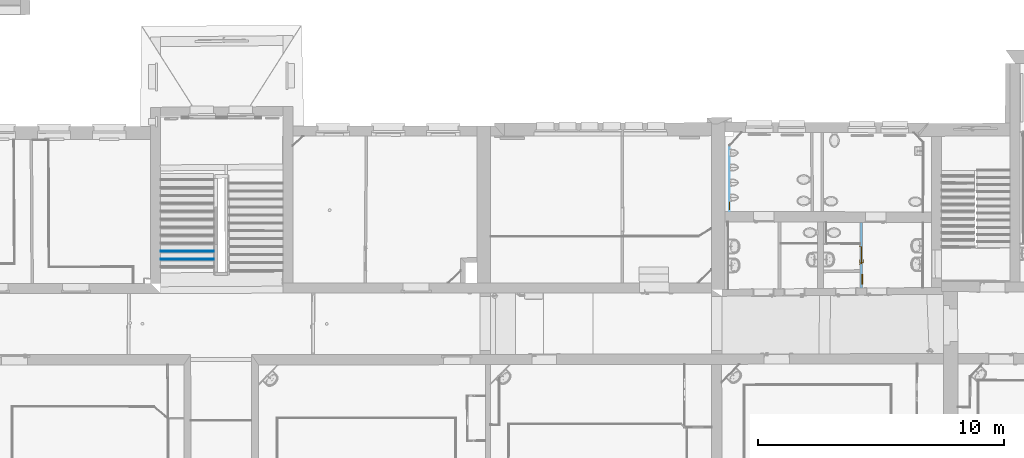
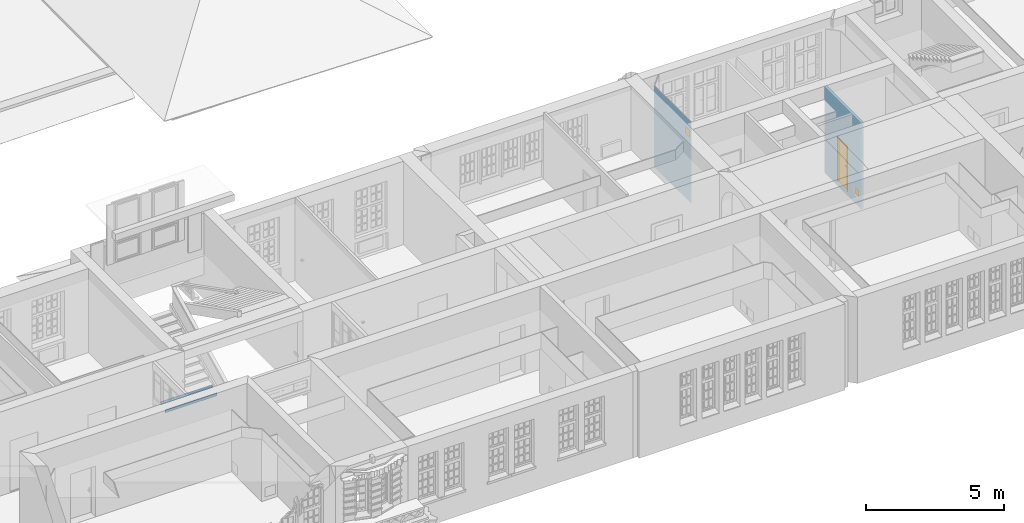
# One storey, part 89 of 158: 3 doors, 2 building element parts, 3 openings, 1 element without a shape of its own, plus 2 elements that do not belong to this part.
"""IFC2X3 building model written with IfcOpenShell, lengths in metres."""

from ifc_helpers import new_model, entity, si_unit, converted_unit, derived_unit, money_unit, direction, frame, origin_with_axes, origin_2d_with_axis, place, context, subcontext, project, spatial, polyline, rectangle, outline, extrude, faceted_brep, material, layer, layer_set, layer_usage, type_object, element, fill, aggregate, save


model = new_model("IFC2X3")

# Units and contexts
model_context = context("Model", 3, precision=1e-05, world=origin_with_axes(), true_north=direction((0.0, 1.0)))
body_context = subcontext(model_context, "Body", "Model", "MODEL_VIEW")
ifc_project = project(units=[si_unit("LENGTHUNIT", "METRE"), si_unit("AREAUNIT", "SQUARE_METRE"), si_unit("VOLUMEUNIT", "CUBIC_METRE"), converted_unit("PLANEANGLEUNIT", "DEGREE", entity("IfcPlaneAngleMeasure", 0.0174532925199), si_unit("PLANEANGLEUNIT", "RADIAN"), dimensions=[0, 0, 0, 0, 0, 0, 0]), money_unit("EUR"), converted_unit("TIMEUNIT", "Year", entity("IfcTimeMeasure", 31556926.0), si_unit("TIMEUNIT", "SECOND"), dimensions=[0, 0, 1, 0, 0, 0, 0]), si_unit("MASSUNIT", "GRAM", prefix="KILO"), si_unit("THERMODYNAMICTEMPERATUREUNIT", "DEGREE_CELSIUS"), si_unit("LUMINOUSINTENSITYUNIT", "LUMEN"), si_unit("ENERGYUNIT", "JOULE", prefix="MEGA"), derived_unit("THERMALCONDUCTANCEUNIT", [(si_unit("POWERUNIT", "WATT"), 1), (si_unit("LENGTHUNIT", "METRE"), -1), (si_unit("THERMODYNAMICTEMPERATUREUNIT", "KELVIN"), -1)]), derived_unit("SPECIFICHEATCAPACITYUNIT", [(si_unit("ENERGYUNIT", "JOULE"), 1), (si_unit("MASSUNIT", "GRAM", prefix="KILO"), -1), (si_unit("THERMODYNAMICTEMPERATUREUNIT", "KELVIN"), -1)]), derived_unit("MASSDENSITYUNIT", [(si_unit("MASSUNIT", "GRAM", prefix="KILO"), 1), (si_unit("VOLUMEUNIT", "CUBIC_METRE"), -1)])], contexts=[model_context])

# Site, building, storey
site_placement = place(None, origin_with_axes())
site = spatial("IfcSite", under=ifc_project, at=site_placement, Name="Gelände", CompositionType="ELEMENT")
building_placement = place(site_placement, origin_with_axes())
building = spatial("IfcBuilding", under=site, at=building_placement, Name="Gebäude", CompositionType="ELEMENT")
storey_placement = place(building_placement, origin_with_axes())
storey = spatial("IfcBuildingStorey", under=building, at=storey_placement, Name="ERDGESCHOSS", CompositionType="ELEMENT", Elevation=0.0)

# Wall, opening, door
ifc_material_1 = material(Name="43_Gipskarton")
ifc_layer_1 = layer(ifc_material_1, 0.03, ventilated="UNKNOWN")
ifc_layer_set_1 = layer_set([ifc_layer_1], Name="43_Gipskarton 0.03")
ifc_layer_usage_1 = layer_usage(ifc_layer_set_1, "AXIS2", "NEGATIVE", 0.03)
wall_type_1 = type_object("IfcWallType", Name="43_Gipskarton 30", PredefinedType="ELEMENTEDWALL")
wall_1_placement = place(storey_placement, frame((13.298092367, 22.1728609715, 0.01), z_axis=(0.0, 0.0, 1.0), x_axis=(-0.00146747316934, 0.999998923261, 0.0)))
wall_1 = element("IfcWallStandardCase", 1, at=wall_1_placement, inside=storey, type_object=wall_type_1, material=ifc_layer_usage_1, Name="Wand-040", ObjectType="ELEMENTEDWALL", context=body_context, shape_type="SweptSolid", body=[
    extrude(outline(polyline([(0.430006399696, 0.0), (3.09420156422, 0.0), (3.10572213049, 0.03), (0.430170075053, 0.03), (0.430006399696, 0.0)])), origin_with_axes(), (0.0, 0.0, 1.0), 3.59),
])
opening_1_placement = place(wall_1_placement, frame((0.659337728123, 0.0, 2.85684366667), z_axis=(0.0, 0.0, 1.0), x_axis=(1.0, 0.0, 0.0)))
opening_1 = element("IfcOpeningElement", 2, at=opening_1_placement, cuts=wall_1, Name="Tür-022", context=body_context, shape_type="SweptSolid", body=[
    extrude(rectangle(XDim=0.304081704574, YDim=0.300507, at=origin_2d_with_axis()), frame((0.0, -0.03, 0.1502535), z_axis=(0.0, 1.0, 0.0), x_axis=(-1.0, 0.0, 0.0)), (0.0, 0.0, 1.0), 0.09),
])
door_style_1 = type_object("IfcDoorStyle", Name="Blockrahmentür 1-Fl 25", ConstructionType="NOTDEFINED", OperationType="SINGLE_SWING_RIGHT", ParameterTakesPrecedence=False, Sizeable=False)
door_1_placement = place(opening_1_placement, frame((0.147040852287, 0.0, 0.0), z_axis=(0.0, 0.0, 1.0), x_axis=(-1.0, 0.0, 0.0)))
door_1 = element("IfcDoor", 3, at=door_1_placement, inside=storey, type_object=door_style_1, Name="Tür-022", ObjectType="NOTDEFINED", OverallHeight=0.300507, OverallWidth=0.304082, context=body_context, shape_type="Brep", body=[
    faceted_brep([(0.299081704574, -0.03, 0.0), (0.299081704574, 0.0, 0.0), (0.309081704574, 0.0, 0.0), (0.309081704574, -0.03, 0.0), (0.299081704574, -0.03, 0.300507), (0.299081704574, 0.0, 0.300507), (-0.005, 0.0, 0.300507), (-0.005, 0.0, 0.0), (-0.015, 0.0, 0.0), (-0.015, 0.0, 0.310507), (0.162140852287, 0.0, 0.310507), (0.247140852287, 0.0, 0.310507), (0.309081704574, 0.0, 0.310507), (0.309081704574, -0.03, 0.310507), (0.247140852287, -0.03, 0.310507), (0.162140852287, -0.03, 0.310507), (-0.015, -0.03, 0.310507), (-0.015, -0.03, 0.0), (-0.005, -0.03, 0.0), (-0.005, -0.03, 0.300507)], [[[0, 1, 2, 3]], [[4, 5, 1, 0]], [[1, 5, 6, 7, 8, 9, 10, 11, 12, 2]], [[3, 2, 12, 13]], [[0, 3, 13, 14, 15, 16, 17, 18, 19, 4]], [[19, 6, 5, 4]], [[18, 7, 6, 19]], [[17, 8, 7, 18]], [[16, 9, 8, 17]], [[15, 10, 9, 16]], [[14, 11, 10, 15]], [[13, 12, 11, 14]]]),
    faceted_brep([(0.309081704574, 0.0, 0.0), (-0.015, 0.0, 0.0), (-0.015, 0.0, 0.310507), (0.309081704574, 0.0, 0.310507), (0.309081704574, -0.03, 0.0), (-0.015, -0.03, 0.0), (-0.015, -0.03, 0.310507), (0.309081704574, -0.03, 0.310507)], [[[0, 1, 2, 3]], [[1, 0, 4, 5]], [[2, 1, 5, 6]], [[3, 2, 6, 7]], [[0, 3, 7, 4]], [[5, 4, 7, 6]]]),
])
fill(opening_1, door_1)

# Wall, openings, doors
ifc_layer_2 = layer(ifc_material_1, 0.1, ventilated="UNKNOWN")
ifc_layer_set_2 = layer_set([ifc_layer_2], Name="43_Gipskarton 0.1")
ifc_layer_usage_2 = layer_usage(ifc_layer_set_2, "AXIS2", "NEGATIVE", 0.0)
wall_type_2 = type_object("IfcWallType", Name="43_Gipskarton 100", PredefinedType="ELEMENTEDWALL")
wall_2_placement = place(storey_placement, frame((18.6842052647, 22.1513793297, -0.210000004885), z_axis=(0.0, 0.0, 1.0), x_axis=(-0.00326420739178, -0.999994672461, 0.0)))
wall_2 = element("IfcWallStandardCase", 4, at=wall_2_placement, inside=storey, type_object=wall_type_2, material=ifc_layer_usage_2, Name="Wand-039", ObjectType="ELEMENTEDWALL", context=body_context, shape_type="SweptSolid", body=[
    extrude(outline(polyline([(-7.24104359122e-05, -0.1), (2.67223283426, -0.1), (2.67099647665, 0.0), (0.0, 0.0), (-7.24104359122e-05, -0.1)])), origin_with_axes(), (0.0, 0.0, 1.0), 3.81000000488),
])
opening_2_placement = place(wall_2_placement, frame((1.33430360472, 0.0, 0.179549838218), z_axis=(0.0, 0.0, 1.0), x_axis=(1.0, 0.0, 0.0)))
opening_2 = element("IfcOpeningElement", 5, at=opening_2_placement, cuts=wall_2, Name="Tür-022", context=body_context, shape_type="SweptSolid", body=[
    extrude(rectangle(XDim=0.708310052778, YDim=1.981769, at=origin_2d_with_axis()), frame((0.0, 0.1, 0.9908845), z_axis=(0.0, 1.0, 0.0), x_axis=(-1.0, 0.0, 0.0)), (0.0, 0.0, -1.0), 0.3),
])
opening_3_placement = place(wall_2_placement, frame((2.31514698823, 0.0, 0.323223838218), z_axis=(0.0, 0.0, 1.0), x_axis=(1.0, 0.0, 0.0)))
opening_3 = element("IfcOpeningElement", 6, at=opening_3_placement, cuts=wall_2, Name="Brandschutzklappe", context=body_context, shape_type="SweptSolid", body=[
    extrude(rectangle(XDim=0.392963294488, YDim=0.406453, at=origin_2d_with_axis()), frame((0.0, -0.0180311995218, 0.2032265), z_axis=(0.0, 1.0, 0.0), x_axis=(1.0, 0.0, 0.0)), (0.0, 0.0, -1.0), 0.181968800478),
    extrude(rectangle(XDim=0.392963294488, YDim=0.406453, at=origin_2d_with_axis()), frame((0.0, -0.0180311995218, 0.2032265), z_axis=(0.0, -1.0, 0.0), x_axis=(1.0, 0.0, 0.0)), (0.0, 0.0, -1.0), 0.118031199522),
])
door_style_2 = type_object("IfcDoorStyle", Name="Blockrahmentür 1-Fl 25", ConstructionType="NOTDEFINED", OperationType="SINGLE_SWING_LEFT", ParameterTakesPrecedence=False, Sizeable=False)
door_2_placement = place(opening_2_placement, frame((-0.343655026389, 0.0, 0.0), z_axis=(0.0, 0.0, 1.0), x_axis=(1.0, 0.0, 0.0)))
door_2 = element("IfcDoor", 7, at=door_2_placement, inside=storey, type_object=door_style_2, Name="Tür-022", ObjectType="NOTDEFINED", OverallHeight=1.98177, OverallWidth=0.70831, context=body_context, shape_type="Brep", body=[
    faceted_brep([(-0.0105, -0.111, 0.0), (-0.0105, -0.111, 1.981769), (-0.0105, -0.054, 1.981769), (-0.0105, -0.054, 0.0), (0.0, -0.111, 0.0), (0.0, -0.111, 1.971269), (0.228555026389, -0.111, 1.971269), (0.343555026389, -0.111, 1.971269), (0.687310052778, -0.111, 1.971269), (0.687310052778, -0.111, 0.0), (0.697810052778, -0.111, 0.0), (0.697810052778, -0.111, 1.981769), (0.697810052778, -0.054, 1.981769), (0.697810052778, -0.054, 0.0), (0.687310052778, -0.054, 0.0), (0.687310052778, -0.054, 1.971269), (0.343555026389, -0.054, 1.971269), (0.228555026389, -0.054, 1.971269), (0.0, -0.054, 1.971269), (0.0, -0.054, 0.0)], [[[0, 1, 2, 3]], [[0, 4, 5, 6, 7, 8, 9, 10, 11, 1]], [[1, 11, 12, 2]], [[3, 2, 12, 13, 14, 15, 16, 17, 18, 19]], [[4, 0, 3, 19]], [[5, 4, 19, 18]], [[6, 5, 18, 17]], [[7, 6, 17, 16]], [[8, 7, 16, 15]], [[9, 8, 15, 14]], [[10, 9, 14, 13]], [[11, 10, 13, 12]]]),
    faceted_brep([(-0.0105, -0.054, 0.0), (-0.015, -0.054, 0.0), (-0.015, 0.011, 0.0), (-0.0105, 0.011, 0.0), (-0.0105, -0.054, 1.981769), (0.697810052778, -0.054, 1.981769), (0.697810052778, -0.054, 0.0), (0.702310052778, -0.054, 0.0), (0.702310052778, -0.054, 1.986269), (0.328555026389, -0.054, 1.986269), (0.243555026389, -0.054, 1.986269), (-0.015, -0.054, 1.986269), (-0.015, 0.011, 1.986269), (0.243555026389, 0.011, 1.986269), (0.328555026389, 0.011, 1.986269), (0.702310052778, 0.011, 1.986269), (0.702310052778, 0.011, 0.0), (0.697810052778, 0.011, 0.0), (0.697810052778, 0.011, 1.981769), (-0.0105, 0.011, 1.981769)], [[[0, 1, 2, 3]], [[0, 4, 5, 6, 7, 8, 9, 10, 11, 1]], [[1, 11, 12, 2]], [[3, 2, 12, 13, 14, 15, 16, 17, 18, 19]], [[4, 0, 3, 19]], [[5, 4, 19, 18]], [[6, 5, 18, 17]], [[7, 6, 17, 16]], [[8, 7, 16, 15]], [[9, 8, 15, 14]], [[10, 9, 14, 13]], [[11, 10, 13, 12]]]),
    faceted_brep([(-0.0505, -0.111, 0.0), (-0.0505, -0.111, 2.021769), (-0.0505, -0.1, 2.021769), (-0.0505, -0.1, 0.0), (-0.0105, -0.111, 0.0), (-0.0105, -0.111, 1.981769), (0.697810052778, -0.111, 1.981769), (0.697810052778, -0.111, 0.0), (0.737810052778, -0.111, 0.0), (0.737810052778, -0.111, 2.021769), (0.737810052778, -0.1, 2.021769), (0.737810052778, -0.1, 0.0), (0.697810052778, -0.1, 0.0), (0.697810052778, -0.1, 1.981769), (-0.0105, -0.1, 1.981769), (-0.0105, -0.1, 0.0)], [[[0, 1, 2, 3]], [[0, 4, 5, 6, 7, 8, 9, 1]], [[1, 9, 10, 2]], [[3, 2, 10, 11, 12, 13, 14, 15]], [[4, 0, 3, 15]], [[5, 4, 15, 14]], [[6, 5, 14, 13]], [[7, 6, 13, 12]], [[8, 7, 12, 11]], [[9, 8, 11, 10]]]),
    faceted_brep([(-0.0505, 0.0, 0.0), (-0.0505, 0.0, 2.021769), (-0.0505, 0.011, 2.021769), (-0.0505, 0.011, 0.0), (-0.0105, 0.0, 0.0), (-0.0105, 0.0, 1.981769), (0.697810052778, 0.0, 1.981769), (0.697810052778, 0.0, 0.0), (0.737810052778, 0.0, 0.0), (0.737810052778, 0.0, 2.021769), (0.737810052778, 0.011, 2.021769), (0.737810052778, 0.011, 0.0), (0.697810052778, 0.011, 0.0), (0.697810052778, 0.011, 1.981769), (-0.0105, 0.011, 1.981769), (-0.0105, 0.011, 0.0)], [[[0, 1, 2, 3]], [[0, 4, 5, 6, 7, 8, 9, 1]], [[1, 9, 10, 2]], [[3, 2, 10, 11, 12, 13, 14, 15]], [[4, 0, 3, 15]], [[5, 4, 15, 14]], [[6, 5, 14, 13]], [[7, 6, 13, 12]], [[8, 7, 12, 11]], [[9, 8, 11, 10]]]),
    faceted_brep([(-0.015, -0.014, 0.0), (-0.015, -0.014, 1.986269), (0.702310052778, -0.014, 1.986269), (0.702310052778, -0.014, 0.0), (-0.015, -0.054, 0.0), (-0.015, -0.054, 1.986269), (0.702310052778, -0.054, 1.986269), (0.702310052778, -0.054, 0.0)], [[[0, 1, 2, 3]], [[0, 4, 5, 1]], [[1, 5, 6, 2]], [[2, 6, 7, 3]], [[3, 7, 4, 0]], [[7, 6, 5, 4]]]),
    faceted_brep([(0.647012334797, -0.094, 1.05647213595), (0.647012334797, -0.074, 1.05647213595), (0.642310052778, -0.074, 1.058), (0.642310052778, -0.094, 1.058), (0.649918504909, -0.094, 1.05247213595), (0.649918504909, -0.074, 1.05247213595), (0.648187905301, -0.072, 1.05809016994), (0.642310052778, -0.072, 1.06), (0.63760777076, -0.074, 1.05647213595), (0.63760777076, -0.094, 1.05647213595), (0.634701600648, -0.094, 1.05247213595), (0.634701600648, -0.094, 1.04752786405), (0.63760777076, -0.094, 1.04352786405), (0.642310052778, -0.094, 1.042), (0.647012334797, -0.094, 1.04352786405), (0.649918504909, -0.094, 1.04752786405), (0.649918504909, -0.074, 1.04752786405), (0.651820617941, -0.072, 1.05309016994), (0.648187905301, -0.064, 1.05809016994), (0.642310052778, -0.064, 1.06), (0.636432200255, -0.072, 1.05809016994), (0.634701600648, -0.074, 1.05247213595), (0.634701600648, -0.074, 1.04752786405), (0.63760777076, -0.074, 1.04352786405), (0.642310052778, -0.074, 1.042), (0.647012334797, -0.074, 1.04352786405), (0.651820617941, -0.072, 1.04690983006), (0.651820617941, -0.064, 1.05309016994), (0.651820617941, -0.064, 1.04690983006), (0.648187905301, -0.064, 1.04190983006), (0.642310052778, -0.064, 1.04), (0.636432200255, -0.064, 1.04190983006), (0.632799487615, -0.064, 1.04690983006), (0.632799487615, -0.064, 1.05309016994), (0.636432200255, -0.064, 1.05809016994), (0.632799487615, -0.072, 1.05309016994), (0.632799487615, -0.072, 1.04690983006), (0.636432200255, -0.072, 1.04190983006), (0.642310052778, -0.072, 1.04), (0.648187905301, -0.072, 1.04190983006)], [[[0, 1, 2, 3]], [[4, 5, 1, 0]], [[1, 6, 7, 2]], [[3, 2, 8, 9]], [[3, 9, 10, 11, 12, 13, 14, 15, 4, 0]], [[15, 16, 5, 4]], [[5, 17, 6, 1]], [[6, 18, 19, 7]], [[2, 7, 20, 8]], [[9, 8, 21, 10]], [[10, 21, 22, 11]], [[11, 22, 23, 12]], [[12, 23, 24, 13]], [[13, 24, 25, 14]], [[14, 25, 16, 15]], [[16, 26, 17, 5]], [[17, 27, 18, 6]], [[19, 18, 27, 28, 29, 30, 31, 32, 33, 34]], [[7, 19, 34, 20]], [[8, 20, 35, 21]], [[21, 35, 36, 22]], [[22, 36, 37, 23]], [[23, 37, 38, 24]], [[24, 38, 39, 25]], [[25, 39, 26, 16]], [[26, 28, 27, 17]], [[39, 29, 28, 26]], [[38, 30, 29, 39]], [[37, 31, 30, 38]], [[36, 32, 31, 37]], [[35, 33, 32, 36]], [[20, 34, 33, 35]]]),
    faceted_brep([(0.630121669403, -0.064, 1.11759695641), (0.625510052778, -0.064, 1.11), (0.619810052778, -0.064, 1.11), (0.619810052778, -0.064, 0.89), (0.625510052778, -0.064, 0.89), (0.630121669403, -0.064, 0.882403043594), (0.637866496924, -0.064, 0.878044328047), (0.646753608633, -0.064, 0.878044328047), (0.654498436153, -0.064, 0.882403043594), (0.659110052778, -0.064, 0.89), (0.664810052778, -0.064, 0.89), (0.664810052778, -0.064, 1.11), (0.659110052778, -0.064, 1.11), (0.654498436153, -0.064, 1.11759695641), (0.646753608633, -0.064, 1.12195567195), (0.637866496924, -0.064, 1.12195567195), (0.642310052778, -0.064, 0.967425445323), (0.647685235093, -0.064, 0.965143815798), (0.649777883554, -0.064, 0.959692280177), (0.647310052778, -0.064, 0.9544), (0.647310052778, -0.064, 0.9375), (0.645845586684, -0.064, 0.933964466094), (0.642310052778, -0.064, 0.9325), (0.638774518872, -0.064, 0.933964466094), (0.637310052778, -0.064, 0.9375), (0.637310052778, -0.064, 0.9544), (0.634842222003, -0.064, 0.959692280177), (0.636934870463, -0.064, 0.965143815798), (0.630121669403, -0.054, 1.11759695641), (0.625510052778, -0.054, 1.11), (0.619810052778, -0.054, 1.11), (0.619810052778, -0.054, 0.89), (0.625510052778, -0.054, 0.89), (0.630121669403, -0.054, 0.882403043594), (0.637866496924, -0.054, 0.878044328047), (0.646753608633, -0.054, 0.878044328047), (0.654498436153, -0.054, 0.882403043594), (0.659110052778, -0.054, 0.89), (0.664810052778, -0.054, 0.89), (0.664810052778, -0.054, 1.11), (0.659110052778, -0.054, 1.11), (0.654498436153, -0.054, 1.11759695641), (0.646753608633, -0.054, 1.12195567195), (0.637866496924, -0.054, 1.12195567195), (0.642310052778, -0.054, 0.967425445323), (0.647685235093, -0.054, 0.965143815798), (0.649777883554, -0.054, 0.959692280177), (0.647310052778, -0.054, 0.9544), (0.647310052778, -0.054, 0.9375), (0.645845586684, -0.054, 0.933964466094), (0.642310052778, -0.054, 0.9325), (0.638774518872, -0.054, 0.933964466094), (0.637310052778, -0.054, 0.9375), (0.637310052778, -0.054, 0.9544), (0.634842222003, -0.054, 0.959692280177), (0.636934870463, -0.054, 0.965143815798)], [[[0, 1, 2, 3, 4, 5, 6, 7, 8, 9, 10, 11, 12, 13, 14, 15], [16, 17, 18, 19, 20, 21, 22, 23, 24, 25, 26, 27]], [[0, 28, 29, 1]], [[1, 29, 30, 2]], [[2, 30, 31, 3]], [[3, 31, 32, 4]], [[4, 32, 33, 5]], [[5, 33, 34, 6]], [[6, 34, 35, 7]], [[7, 35, 36, 8]], [[8, 36, 37, 9]], [[9, 37, 38, 10]], [[10, 38, 39, 11]], [[11, 39, 40, 12]], [[12, 40, 41, 13]], [[13, 41, 42, 14]], [[14, 42, 43, 15]], [[15, 43, 28, 0]], [[16, 44, 45, 17]], [[17, 45, 46, 18]], [[18, 46, 47, 19]], [[47, 48, 20, 19]], [[21, 20, 48, 49]], [[22, 21, 49, 50]], [[23, 22, 50, 51]], [[24, 23, 51, 52]], [[25, 24, 52, 53]], [[25, 53, 54, 26]], [[26, 54, 55, 27]], [[27, 55, 44, 16]], [[32, 31, 30, 29, 28, 43, 42, 41, 40, 39, 38, 37, 36, 35, 34, 33], [46, 45, 44, 55, 54, 53, 52, 51, 50, 49, 48, 47]]]),
    faceted_brep([(0.528057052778, -0.094, 1.057158), (0.528055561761, -0.094, 1.05719388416), (0.528055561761, -0.109, 1.05719388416), (0.528057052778, -0.109, 1.057158), (0.555084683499, -0.094, 1.06432652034), (0.582912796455, -0.094, 1.06706086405), (0.610818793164, -0.094, 1.06529002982), (0.638078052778, -0.094, 1.05906), (0.644480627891, -0.094, 1.05976125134), (0.649982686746, -0.094, 1.05641280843), (0.652301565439, -0.094, 1.05040385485), (0.65047522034, -0.094, 1.04422735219), (0.645261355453, -0.094, 1.04044577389), (0.638823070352, -0.094, 1.04062800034), (0.633831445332, -0.094, 1.04469843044), (0.633852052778, -0.094, 1.044666), (0.608563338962, -0.094, 1.05019878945), (0.582720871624, -0.094, 1.05171460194), (0.556958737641, -0.094, 1.04917624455), (0.531909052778, -0.094, 1.042646), (0.526365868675, -0.094, 1.04356849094), (0.523004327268, -0.094, 1.04807159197), (0.523695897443, -0.094, 1.05364829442), (0.523695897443, -0.109, 1.05364829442), (0.523004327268, -0.109, 1.04807159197), (0.526365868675, -0.109, 1.04356849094), (0.531909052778, -0.109, 1.042646), (0.556958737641, -0.109, 1.04917624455), (0.582720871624, -0.109, 1.05171460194), (0.608563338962, -0.109, 1.05019878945), (0.633852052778, -0.109, 1.044666), (0.633831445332, -0.109, 1.04469843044), (0.638823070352, -0.109, 1.04062800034), (0.645261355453, -0.109, 1.04044577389), (0.65047522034, -0.109, 1.04422735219), (0.652301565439, -0.109, 1.05040385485), (0.649982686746, -0.109, 1.05641280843), (0.644480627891, -0.109, 1.05976125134), (0.638078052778, -0.109, 1.05906), (0.610818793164, -0.109, 1.06529002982), (0.582912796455, -0.109, 1.06706086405), (0.555084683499, -0.109, 1.06432652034)], [[[0, 1, 2, 3]], [[0, 4, 5, 6, 7, 8, 9, 10, 11, 12, 13, 14, 15, 16, 17, 18, 19, 20, 21, 22, 1]], [[1, 22, 23, 2]], [[3, 2, 23, 24, 25, 26, 27, 28, 29, 30, 31, 32, 33, 34, 35, 36, 37, 38, 39, 40, 41]], [[4, 0, 3, 41]], [[5, 4, 41, 40]], [[6, 5, 40, 39]], [[7, 6, 39, 38]], [[8, 7, 38, 37]], [[9, 8, 37, 36]], [[10, 9, 36, 35]], [[11, 10, 35, 34]], [[12, 11, 34, 33]], [[13, 12, 33, 32]], [[14, 13, 32, 31]], [[15, 14, 31, 30]], [[16, 15, 30, 29]], [[17, 16, 29, 28]], [[18, 17, 28, 27]], [[19, 18, 27, 26]], [[20, 19, 26, 25]], [[21, 20, 25, 24]], [[22, 21, 24, 23]]]),
    faceted_brep([(0.647012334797, 0.026, 1.05647213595), (0.642310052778, 0.026, 1.058), (0.642310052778, 0.006, 1.058), (0.647012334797, 0.006, 1.05647213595), (0.649918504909, 0.026, 1.05247213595), (0.649918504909, 0.026, 1.04752786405), (0.647012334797, 0.026, 1.04352786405), (0.642310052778, 0.026, 1.042), (0.63760777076, 0.026, 1.04352786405), (0.634701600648, 0.026, 1.04752786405), (0.634701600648, 0.026, 1.05247213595), (0.63760777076, 0.026, 1.05647213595), (0.63760777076, 0.006, 1.05647213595), (0.642310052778, 0.004, 1.06), (0.648187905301, 0.00399999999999, 1.05809016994), (0.649918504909, 0.006, 1.05247213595), (0.649918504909, 0.006, 1.04752786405), (0.647012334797, 0.006, 1.04352786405), (0.642310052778, 0.006, 1.042), (0.63760777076, 0.006, 1.04352786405), (0.634701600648, 0.00599999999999, 1.04752786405), (0.634701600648, 0.00599999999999, 1.05247213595), (0.636432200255, 0.004, 1.05809016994), (0.642310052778, -0.004, 1.06), (0.648187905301, -0.004, 1.05809016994), (0.651820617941, 0.004, 1.05309016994), (0.651820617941, 0.004, 1.04690983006), (0.648187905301, 0.00399999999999, 1.04190983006), (0.642310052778, 0.004, 1.04), (0.636432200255, 0.004, 1.04190983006), (0.632799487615, 0.004, 1.04690983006), (0.632799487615, 0.004, 1.05309016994), (0.636432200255, -0.004, 1.05809016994), (0.632799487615, -0.004, 1.05309016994), (0.632799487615, -0.004, 1.04690983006), (0.636432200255, -0.004, 1.04190983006), (0.642310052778, -0.004, 1.04), (0.648187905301, -0.004, 1.04190983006), (0.651820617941, -0.004, 1.04690983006), (0.651820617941, -0.004, 1.05309016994)], [[[0, 1, 2, 3]], [[1, 0, 4, 5, 6, 7, 8, 9, 10, 11]], [[1, 11, 12, 2]], [[3, 2, 13, 14]], [[4, 0, 3, 15]], [[5, 4, 15, 16]], [[6, 5, 16, 17]], [[7, 6, 17, 18]], [[8, 7, 18, 19]], [[9, 8, 19, 20]], [[10, 9, 20, 21]], [[11, 10, 21, 12]], [[2, 12, 22, 13]], [[14, 13, 23, 24]], [[15, 3, 14, 25]], [[16, 15, 25, 26]], [[17, 16, 26, 27]], [[18, 17, 27, 28]], [[19, 18, 28, 29]], [[20, 19, 29, 30]], [[21, 20, 30, 31]], [[12, 21, 31, 22]], [[13, 22, 32, 23]], [[23, 32, 33, 34, 35, 36, 37, 38, 39, 24]], [[25, 14, 24, 39]], [[26, 25, 39, 38]], [[27, 26, 38, 37]], [[28, 27, 37, 36]], [[29, 28, 36, 35]], [[30, 29, 35, 34]], [[31, 30, 34, 33]], [[22, 31, 33, 32]]]),
    faceted_brep([(0.630121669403, -0.014, 1.11759695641), (0.625510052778, -0.014, 1.11), (0.619810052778, -0.014, 1.11), (0.619810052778, -0.014, 0.89), (0.625510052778, -0.014, 0.89), (0.630121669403, -0.014, 0.882403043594), (0.637866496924, -0.014, 0.878044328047), (0.646753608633, -0.014, 0.878044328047), (0.654498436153, -0.014, 0.882403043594), (0.659110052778, -0.014, 0.89), (0.664810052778, -0.014, 0.89), (0.664810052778, -0.014, 1.11), (0.659110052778, -0.014, 1.11), (0.654498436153, -0.014, 1.11759695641), (0.646753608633, -0.014, 1.12195567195), (0.637866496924, -0.014, 1.12195567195), (0.642310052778, -0.014, 0.967425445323), (0.647685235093, -0.014, 0.965143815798), (0.649777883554, -0.014, 0.959692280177), (0.647310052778, -0.014, 0.9544), (0.647310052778, -0.014, 0.9375), (0.645845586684, -0.014, 0.933964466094), (0.642310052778, -0.014, 0.9325), (0.638774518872, -0.014, 0.933964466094), (0.637310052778, -0.014, 0.9375), (0.637310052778, -0.014, 0.9544), (0.634842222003, -0.014, 0.959692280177), (0.636934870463, -0.014, 0.965143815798), (0.630121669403, -0.004, 1.11759695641), (0.625510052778, -0.004, 1.11), (0.619810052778, -0.004, 1.11), (0.619810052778, -0.004, 0.89), (0.625510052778, -0.004, 0.89), (0.630121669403, -0.004, 0.882403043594), (0.637866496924, -0.004, 0.878044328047), (0.646753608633, -0.004, 0.878044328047), (0.654498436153, -0.004, 0.882403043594), (0.659110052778, -0.004, 0.89), (0.664810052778, -0.004, 0.89), (0.664810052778, -0.004, 1.11), (0.659110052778, -0.004, 1.11), (0.654498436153, -0.004, 1.11759695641), (0.646753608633, -0.004, 1.12195567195), (0.637866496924, -0.004, 1.12195567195), (0.642310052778, -0.004, 0.967425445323), (0.647685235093, -0.004, 0.965143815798), (0.649777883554, -0.004, 0.959692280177), (0.647310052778, -0.004, 0.9544), (0.647310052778, -0.004, 0.9375), (0.645845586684, -0.004, 0.933964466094), (0.642310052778, -0.004, 0.9325), (0.638774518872, -0.004, 0.933964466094), (0.637310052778, -0.004, 0.9375), (0.637310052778, -0.004, 0.9544), (0.634842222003, -0.004, 0.959692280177), (0.636934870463, -0.004, 0.965143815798)], [[[0, 1, 2, 3, 4, 5, 6, 7, 8, 9, 10, 11, 12, 13, 14, 15], [16, 17, 18, 19, 20, 21, 22, 23, 24, 25, 26, 27]], [[28, 29, 1, 0]], [[29, 30, 2, 1]], [[30, 31, 3, 2]], [[31, 32, 4, 3]], [[32, 33, 5, 4]], [[33, 34, 6, 5]], [[34, 35, 7, 6]], [[35, 36, 8, 7]], [[36, 37, 9, 8]], [[37, 38, 10, 9]], [[38, 39, 11, 10]], [[39, 40, 12, 11]], [[40, 41, 13, 12]], [[41, 42, 14, 13]], [[42, 43, 15, 14]], [[43, 28, 0, 15]], [[16, 44, 45, 17]], [[17, 45, 46, 18]], [[18, 46, 47, 19]], [[47, 48, 20, 19]], [[21, 20, 48, 49]], [[22, 21, 49, 50]], [[23, 22, 50, 51]], [[24, 23, 51, 52]], [[25, 24, 52, 53]], [[25, 53, 54, 26]], [[26, 54, 55, 27]], [[27, 55, 44, 16]], [[32, 31, 30, 29, 28, 43, 42, 41, 40, 39, 38, 37, 36, 35, 34, 33], [46, 45, 44, 55, 54, 53, 52, 51, 50, 49, 48, 47]]]),
    faceted_brep([(0.528057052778, 0.026, 1.057158), (0.528057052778, 0.041, 1.057158), (0.528055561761, 0.041, 1.05719388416), (0.528055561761, 0.026, 1.05719388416), (0.555084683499, 0.026, 1.06432652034), (0.555084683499, 0.041, 1.06432652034), (0.582912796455, 0.041, 1.06706086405), (0.610818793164, 0.041, 1.06529002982), (0.638078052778, 0.041, 1.05906), (0.644480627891, 0.041, 1.05976125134), (0.649982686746, 0.041, 1.05641280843), (0.652301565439, 0.041, 1.05040385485), (0.65047522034, 0.041, 1.04422735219), (0.645261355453, 0.041, 1.04044577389), (0.638823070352, 0.041, 1.04062800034), (0.633831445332, 0.041, 1.04469843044), (0.633852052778, 0.041, 1.044666), (0.608563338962, 0.041, 1.05019878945), (0.582720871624, 0.041, 1.05171460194), (0.556958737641, 0.041, 1.04917624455), (0.531909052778, 0.041, 1.042646), (0.526365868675, 0.041, 1.04356849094), (0.523004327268, 0.041, 1.04807159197), (0.523695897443, 0.041, 1.05364829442), (0.523695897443, 0.026, 1.05364829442), (0.523004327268, 0.026, 1.04807159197), (0.526365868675, 0.026, 1.04356849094), (0.531909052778, 0.026, 1.042646), (0.556958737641, 0.026, 1.04917624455), (0.582720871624, 0.026, 1.05171460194), (0.608563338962, 0.026, 1.05019878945), (0.633852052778, 0.026, 1.044666), (0.633831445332, 0.026, 1.04469843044), (0.638823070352, 0.026, 1.04062800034), (0.645261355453, 0.026, 1.04044577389), (0.65047522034, 0.026, 1.04422735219), (0.652301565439, 0.026, 1.05040385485), (0.649982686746, 0.026, 1.05641280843), (0.644480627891, 0.026, 1.05976125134), (0.638078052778, 0.026, 1.05906), (0.610818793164, 0.026, 1.06529002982), (0.582912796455, 0.026, 1.06706086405)], [[[0, 1, 2, 3]], [[4, 5, 1, 0]], [[1, 5, 6, 7, 8, 9, 10, 11, 12, 13, 14, 15, 16, 17, 18, 19, 20, 21, 22, 23, 2]], [[3, 2, 23, 24]], [[0, 3, 24, 25, 26, 27, 28, 29, 30, 31, 32, 33, 34, 35, 36, 37, 38, 39, 40, 41, 4]], [[41, 6, 5, 4]], [[40, 7, 6, 41]], [[39, 8, 7, 40]], [[38, 9, 8, 39]], [[37, 10, 9, 38]], [[36, 11, 10, 37]], [[35, 12, 11, 36]], [[34, 13, 12, 35]], [[33, 14, 13, 34]], [[32, 15, 14, 33]], [[31, 16, 15, 32]], [[30, 17, 16, 31]], [[29, 18, 17, 30]], [[28, 19, 18, 29]], [[27, 20, 19, 28]], [[26, 21, 20, 27]], [[25, 22, 21, 26]], [[24, 23, 22, 25]]]),
])
fill(opening_2, door_2)
door_3_placement = place(opening_3_placement, frame((-0.191481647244, 0.0, 0.0), z_axis=(0.0, 0.0, 1.0), x_axis=(1.0, 0.0, 0.0)))
door_3 = element("IfcDoor", 8, at=door_3_placement, inside=storey, type_object=door_style_1, Name="Brandschutzklappe", ObjectType="NOTDEFINED", OverallHeight=0.406453, OverallWidth=0.392963, context=body_context, shape_type="Brep", body=[
    faceted_brep([(0.387963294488, -0.0180311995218, 0.0), (0.387963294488, 0.0119688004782, 0.0), (0.397963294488, 0.0119688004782, 0.0), (0.397963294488, -0.0180311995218, 0.0), (0.387963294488, -0.0180311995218, 0.406453), (0.387963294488, 0.0119688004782, 0.406453), (-0.005, 0.0119688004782, 0.406453), (-0.005, 0.0119688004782, 0.0), (-0.015, 0.0119688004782, 0.0), (-0.015, 0.0119688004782, 0.416453), (0.206581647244, 0.0119688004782, 0.416453), (0.291581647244, 0.0119688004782, 0.416453), (0.397963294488, 0.0119688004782, 0.416453), (0.397963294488, -0.0180311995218, 0.416453), (0.291581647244, -0.0180311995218, 0.416453), (0.206581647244, -0.0180311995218, 0.416453), (-0.015, -0.0180311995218, 0.416453), (-0.015, -0.0180311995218, 0.0), (-0.005, -0.0180311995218, 0.0), (-0.005, -0.0180311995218, 0.406453)], [[[0, 1, 2, 3]], [[4, 5, 1, 0]], [[1, 5, 6, 7, 8, 9, 10, 11, 12, 2]], [[3, 2, 12, 13]], [[0, 3, 13, 14, 15, 16, 17, 18, 19, 4]], [[19, 6, 5, 4]], [[18, 7, 6, 19]], [[17, 8, 7, 18]], [[16, 9, 8, 17]], [[15, 10, 9, 16]], [[14, 11, 10, 15]], [[13, 12, 11, 14]]]),
    faceted_brep([(0.397963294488, 0.0119688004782, 0.0), (-0.015, 0.0119688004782, 0.0), (-0.015, 0.0119688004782, 0.416453), (0.397963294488, 0.0119688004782, 0.416453), (0.397963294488, -0.0180311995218, 0.0), (-0.015, -0.0180311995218, 0.0), (-0.015, -0.0180311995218, 0.416453), (0.397963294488, -0.0180311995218, 0.416453)], [[[0, 1, 2, 3]], [[1, 0, 4, 5]], [[2, 1, 5, 6]], [[3, 2, 6, 7]], [[0, 3, 7, 4]], [[5, 4, 7, 6]]]),
])
fill(opening_3, door_3)

# Stair, building element parts
stair_placement = place(storey_placement, frame((-9.84157552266, 20.2697661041, -0.136081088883), z_axis=(0.0, 0.0, 1.0), x_axis=(0.999999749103, -0.000708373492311, 0.0)))
stair = element("IfcStair", 9, at=stair_placement, inside=storey, Name="Treppe-003", ShapeType="NOTDEFINED")
ifc_material_2 = material(Name="05_ALLGEMEIN - TRAGENDE BAUTEILE")
building_element_part_1_placement = place(stair_placement, origin_with_axes())
building_element_part_1 = element("IfcBuildingElementPart", 10, at=building_element_part_1_placement, material=ifc_material_2, Name="05_ALLGEMEIN - TRAGENDE BAUTEILE", context=body_context, shape_type="Brep", body=[
    faceted_brep([(2.15844474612, 0.374377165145, 0.162173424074), (2.15844474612, 0.374377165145, 0.284346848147), (-0.000299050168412, 0.372644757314, 0.284346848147), (-0.000299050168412, 0.372644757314, 0.162173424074), (2.15838234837, 0.414377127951, 0.284346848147), (2.15838234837, 0.414377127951, 0.162173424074), (-0.000331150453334, 0.412644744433, 0.284346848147), (-0.000331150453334, 0.412644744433, 0.162173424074)], [[[0, 1, 2, 3]], [[4, 1, 0, 5]], [[1, 4, 6, 2]], [[3, 2, 6, 7]], [[5, 0, 3, 7]], [[4, 5, 7, 6]]]),
])
building_element_part_2_placement = place(stair_placement, origin_with_axes())
building_element_part_2 = element("IfcBuildingElementPart", 11, at=building_element_part_2_placement, material=ifc_material_2, Name="05_ALLGEMEIN - TRAGENDE BAUTEILE", context=body_context, shape_type="Brep", body=[
    faceted_brep([(2.1579414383, 0.69702174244, 0.324346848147), (2.1579414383, 0.69702174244, 0.446520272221), (-0.000557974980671, 0.695289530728, 0.446520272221), (-0.000557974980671, 0.695289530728, 0.324346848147), (2.15787904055, 0.737021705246, 0.446520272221), (2.15787904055, 0.737021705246, 0.324346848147), (-0.000590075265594, 0.735289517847, 0.446520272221), (-0.000590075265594, 0.735289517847, 0.324346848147)], [[[0, 1, 2, 3]], [[4, 1, 0, 5]], [[1, 4, 6, 2]], [[3, 2, 6, 7]], [[5, 0, 3, 7]], [[4, 5, 7, 6]]]),
])
aggregate(stair, [building_element_part_1, building_element_part_2])

save(model, "model.ifc")
